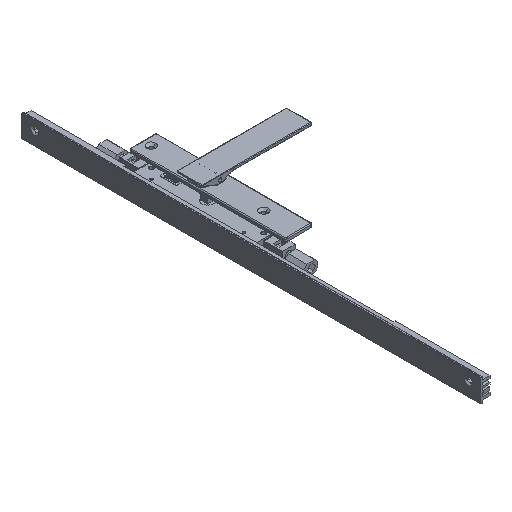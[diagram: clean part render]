
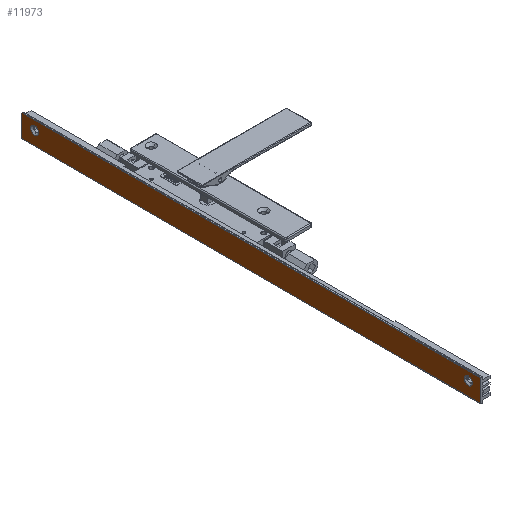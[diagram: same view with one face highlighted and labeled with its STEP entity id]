
A CAD part, isometric view. The second image highlights one B-rep face of the part: STEP entity #11973.
In plain terms, the highlighted planar face has unit normal (-1, 0, 0) as drawn and (0, 1, 0) by its records, which use the part's own axes.
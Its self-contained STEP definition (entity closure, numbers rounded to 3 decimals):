
#252 = CIRCLE ( 'NONE', #5238, 4.889 ) ;
#330 = EDGE_LOOP ( 'NONE', ( #7136, #15070 ) ) ;
#1000 = AXIS2_PLACEMENT_3D ( 'NONE', #1768, #16851, #15285 ) ;
#1097 = VERTEX_POINT ( 'NONE', #5881 ) ;
#1117 = VECTOR ( 'NONE', #16219, 1000. ) ;
#1184 = VERTEX_POINT ( 'NONE', #1877 ) ;
#1345 = VECTOR ( 'NONE', #2207, 1000. ) ;
#1382 = EDGE_CURVE ( 'NONE', #12787, #1097, #18693, .T. ) ;
#1768 = CARTESIAN_POINT ( 'NONE',  ( 20.8, 12.4, 544. ) ) ;
#1877 = CARTESIAN_POINT ( 'NONE',  ( 6.911, 12.4, 15. ) ) ;
#2160 = VERTEX_POINT ( 'NONE', #3549 ) ;
#2193 = VERTEX_POINT ( 'NONE', #5581 ) ;
#2207 = DIRECTION ( 'NONE',  ( -1., 0., 0. ) ) ;
#2305 = CARTESIAN_POINT ( 'NONE',  ( 20.8, 12.4, 544. ) ) ;
#2475 = CARTESIAN_POINT ( 'NONE',  ( 11.8, 12.4, 524.111 ) ) ;
#2718 = DIRECTION ( 'NONE',  ( 0., 0., 1. ) ) ;
#2758 = CIRCLE ( 'NONE', #18521, 4.889 ) ;
#3549 = CARTESIAN_POINT ( 'NONE',  ( 22., 12.4, 0. ) ) ;
#3590 = CARTESIAN_POINT ( 'NONE',  ( -4.4, 12.4, 544. ) ) ;
#4084 = LINE ( 'NONE', #17703, #1117 ) ;
#4219 = ORIENTED_EDGE ( 'NONE', *, *, #5806, .F. ) ;
#4380 = ORIENTED_EDGE ( 'NONE', *, *, #7082, .F. ) ;
#4820 = EDGE_CURVE ( 'NONE', #1184, #14673, #16217, .T. ) ;
#4883 = AXIS2_PLACEMENT_3D ( 'NONE', #11209, #5396, #6895 ) ;
#5066 = CARTESIAN_POINT ( 'NONE',  ( 11.8, 12.4, 15. ) ) ;
#5238 = AXIS2_PLACEMENT_3D ( 'NONE', #5066, #11064, #16085 ) ;
#5396 = DIRECTION ( 'NONE',  ( 0., 1., 0. ) ) ;
#5581 = CARTESIAN_POINT ( 'NONE',  ( 11.8, 12.4, 533.889 ) ) ;
#5806 = EDGE_CURVE ( 'NONE', #17863, #2160, #4084, .T. ) ;
#5881 = CARTESIAN_POINT ( 'NONE',  ( -4.4, 12.4, 544. ) ) ;
#5993 = DIRECTION ( 'NONE',  ( 0., 1., 0. ) ) ;
#6836 = AXIS2_PLACEMENT_3D ( 'NONE', #12650, #18704, #11263 ) ;
#6895 = DIRECTION ( 'NONE',  ( -1., 0., 0. ) ) ;
#7082 = EDGE_CURVE ( 'NONE', #16619, #2193, #2758, .T. ) ;
#7136 = ORIENTED_EDGE ( 'NONE', *, *, #4820, .F. ) ;
#7513 = VECTOR ( 'NONE', #17310, 1000. ) ;
#8345 = CARTESIAN_POINT ( 'NONE',  ( 22., 12.4, 544. ) ) ;
#9062 = FACE_BOUND ( 'NONE', #330, .T. ) ;
#10484 = EDGE_LOOP ( 'NONE', ( #10679, #13442, #12857, #4219 ) ) ;
#10679 = ORIENTED_EDGE ( 'NONE', *, *, #17115, .F. ) ;
#11064 = DIRECTION ( 'NONE',  ( 0., 1., 0. ) ) ;
#11209 = CARTESIAN_POINT ( 'NONE',  ( 11.8, 12.4, 15. ) ) ;
#11263 = DIRECTION ( 'NONE',  ( 0., 0., 1. ) ) ;
#11699 = CARTESIAN_POINT ( 'NONE',  ( -4.4, 12.4, 0. ) ) ;
#11862 = CARTESIAN_POINT ( 'NONE',  ( 22., 12.4, 544. ) ) ;
#11973 = ADVANCED_FACE ( 'NONE', ( #18344, #15193, #9062 ), #13703, .F. ) ;
#12650 = CARTESIAN_POINT ( 'NONE',  ( 11.8, 12.4, 529. ) ) ;
#12787 = VERTEX_POINT ( 'NONE', #8345 ) ;
#12822 = CIRCLE ( 'NONE', #6836, 4.889 ) ;
#12857 = ORIENTED_EDGE ( 'NONE', *, *, #18581, .F. ) ;
#13418 = CARTESIAN_POINT ( 'NONE',  ( 11.8, 12.4, 529. ) ) ;
#13442 = ORIENTED_EDGE ( 'NONE', *, *, #1382, .F. ) ;
#13550 = VECTOR ( 'NONE', #2718, 1000. ) ;
#13703 = PLANE ( 'NONE',  #1000 ) ;
#14090 = CARTESIAN_POINT ( 'NONE',  ( 16.689, 12.4, 15. ) ) ;
#14582 = EDGE_LOOP ( 'NONE', ( #15763, #4380 ) ) ;
#14673 = VERTEX_POINT ( 'NONE', #14090 ) ;
#14860 = LINE ( 'NONE', #11862, #13550 ) ;
#15070 = ORIENTED_EDGE ( 'NONE', *, *, #18840, .F. ) ;
#15193 = FACE_BOUND ( 'NONE', #14582, .T. ) ;
#15285 = DIRECTION ( 'NONE',  ( 1., 0., 0. ) ) ;
#15763 = ORIENTED_EDGE ( 'NONE', *, *, #16821, .F. ) ;
#16085 = DIRECTION ( 'NONE',  ( -1., 0., 0. ) ) ;
#16217 = CIRCLE ( 'NONE', #4883, 4.889 ) ;
#16219 = DIRECTION ( 'NONE',  ( 1., 0., 0. ) ) ;
#16488 = DIRECTION ( 'NONE',  ( 0., 0., 1. ) ) ;
#16619 = VERTEX_POINT ( 'NONE', #2475 ) ;
#16821 = EDGE_CURVE ( 'NONE', #2193, #16619, #12822, .T. ) ;
#16851 = DIRECTION ( 'NONE',  ( 0., -1., 0. ) ) ;
#17115 = EDGE_CURVE ( 'NONE', #1097, #17863, #18902, .T. ) ;
#17310 = DIRECTION ( 'NONE',  ( 0., 0., -1. ) ) ;
#17703 = CARTESIAN_POINT ( 'NONE',  ( 20.8, 12.4, 0. ) ) ;
#17863 = VERTEX_POINT ( 'NONE', #11699 ) ;
#18344 = FACE_OUTER_BOUND ( 'NONE', #10484, .T. ) ;
#18521 = AXIS2_PLACEMENT_3D ( 'NONE', #13418, #5993, #16488 ) ;
#18581 = EDGE_CURVE ( 'NONE', #2160, #12787, #14860, .T. ) ;
#18693 = LINE ( 'NONE', #2305, #1345 ) ;
#18704 = DIRECTION ( 'NONE',  ( 0., 1., 0. ) ) ;
#18840 = EDGE_CURVE ( 'NONE', #14673, #1184, #252, .T. ) ;
#18902 = LINE ( 'NONE', #3590, #7513 ) ;
